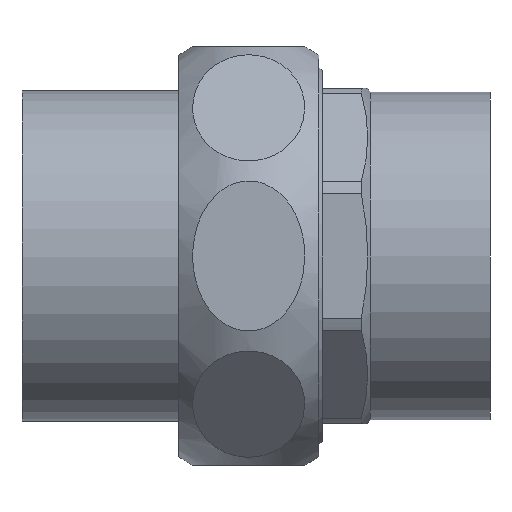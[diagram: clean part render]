
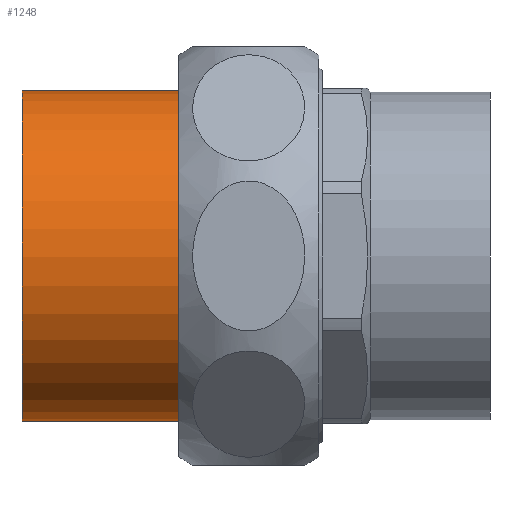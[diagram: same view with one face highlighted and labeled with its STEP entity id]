
A CAD part, front view. The second image highlights one B-rep face of the part: STEP entity #1248.
In plain terms, the highlighted cylindrical face has radius 29.5 mm (diameter 59 mm), a full revolution.
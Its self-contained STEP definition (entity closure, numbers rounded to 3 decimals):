
#1206=CARTESIAN_POINT('',(10.5,29.5,0.0));
#1207=VERTEX_POINT('',#1206);
#1208=CARTESIAN_POINT('',(10.5,0.,0.0));
#1209=DIRECTION('',(1.0,0.0,0.0));
#1210=DIRECTION('',(0.0,-1.0,0.0));
#1211=AXIS2_PLACEMENT_3D('',#1208,#1209,#1210);
#1212=CIRCLE('',#1211,29.5);
#1213=EDGE_CURVE('',#1207,#1207,#1212,.T.);
#1229=CARTESIAN_POINT('',(-5.5,0.,0.0));
#1230=DIRECTION('',(1.0,0.,0.0));
#1231=DIRECTION('',(0.0,1.0,0.0));
#1232=AXIS2_PLACEMENT_3D('',#1229,#1230,#1231);
#1233=CYLINDRICAL_SURFACE('',#1232,29.5);
#1234=CARTESIAN_POINT('',(-22.,29.5,0.0));
#1235=VERTEX_POINT('',#1234);
#1236=CARTESIAN_POINT('',(-22.0,0.0,0.0));
#1237=DIRECTION('',(1.0,0.0,0.0));
#1238=DIRECTION('',(0.0,1.0,0.0));
#1239=AXIS2_PLACEMENT_3D('',#1236,#1237,#1238);
#1240=CIRCLE('',#1239,29.5);
#1241=EDGE_CURVE('',#1235,#1235,#1240,.T.);
#1242=ORIENTED_EDGE('',*,*,#1241,.T.);
#1243=EDGE_LOOP('',(#1242));
#1244=FACE_OUTER_BOUND('',#1243,.T.);
#1245=ORIENTED_EDGE('',*,*,#1213,.F.);
#1246=EDGE_LOOP('',(#1245));
#1247=FACE_BOUND('',#1246,.T.);
#1248=ADVANCED_FACE('',(#1244,#1247),#1233,.T.);
